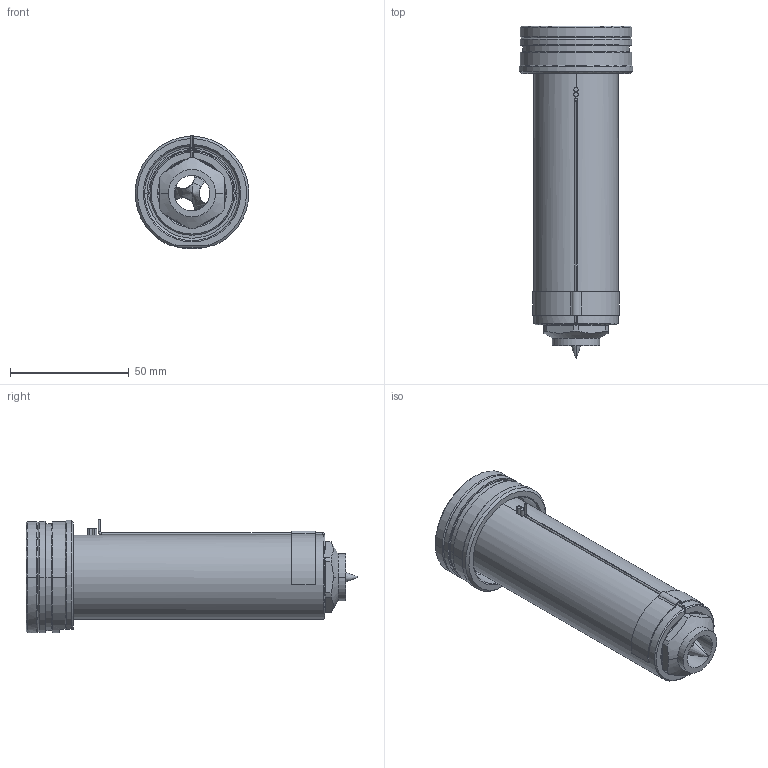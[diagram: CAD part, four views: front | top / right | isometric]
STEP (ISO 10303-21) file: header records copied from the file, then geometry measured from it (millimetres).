
FILE_DESCRIPTION((''),'2;1');
FILE_NAME('EO16_PG-BL_STD_120_SW','2024-02-19T11:16:52',('sundharh'),(''),'CREO PARAMETRIC BY PTC INC, 2023154','CREO PARAMETRIC BY PTC INC, 2023154','');
FILE_SCHEMA(('CONFIG_CONTROL_DESIGN'));
Length unit declared in the file: millimetre
Products named in the file (1): EO16_PG-BL_STD_120_SW
Bounding box: 47.97 x 140 x 48 mm (x, y, z)
Volume: 116650.9 mm3; surface area: 31690.5 mm2
Topology: 1 solids, 1 shells, 200 faces, 526 edges, 325 vertices
Faces by surface type: cylinder 79, plane 59, cone 39, torus 14, bspline 7, sphere 2
Entity records: 7313 total; most frequent: CARTESIAN_POINT 2272, DIRECTION 1113, ORIENTED_EDGE 1040, EDGE_CURVE 520, AXIS2_PLACEMENT_3D 464, VERTEX_POINT 325, CIRCLE 271, EDGE_LOOP 217
